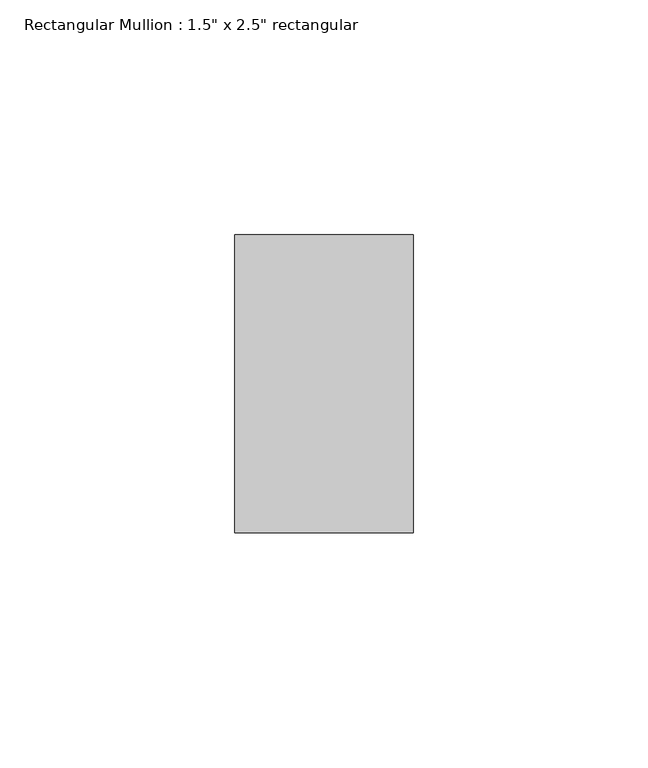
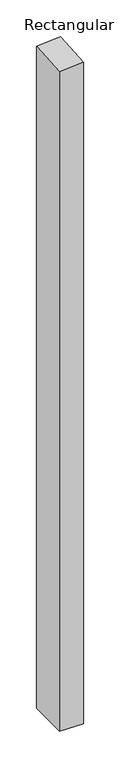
"""IFC4 building model written with IfcOpenShell, lengths in millimetres: member geometry."""

from ifc_helpers import new_model, si_unit, origin, place, context, project, spatial, faceted_brep, source, transform, mapped, element, save


def member_1634c9d9(model_context):
    return source(origin(), model_context, "Body", "Brep", [
        faceted_brep([(19.05, 31.75, -1106.1620381), (19.05, -31.75, -1106.1620381), (-19.05, -31.75, -1106.1620381), (-19.05, 31.75, -1106.1620381), (-19.05, 31.75, 0.9011902), (19.05, 31.75, 3.6321371), (-19.05, -31.75, -3.6321371), (19.05, -31.75, -0.9011902)], [[[0, 1, 2, 3]], [[4, 5, 0, 3]], [[6, 4, 3, 2]], [[7, 6, 2, 1]], [[5, 7, 1, 0]], [[5, 4, 6, 7]]]),
    ])


if __name__ == "__main__":
    model = new_model("IFC4")
    model_context = context("Model", 3, world=origin())
    ifc_project = project(units=[si_unit("LENGTHUNIT", "METRE", prefix="MILLI")], contexts=[model_context])
    site = spatial("IfcSite", under=ifc_project)
    building = spatial("IfcBuilding", under=site)
    placement = place(None, origin())
    member_shape = member_1634c9d9(model_context)
    element("IfcMember", 1, ObjectType="Rectangular Mullion : 1.5\" x 2.5\" rectangular", at=placement, inside=building, context=model_context, shape_type="MappedRepresentation", body=[
        mapped(member_shape, transform((0.0, 0.0, 0.0), x_axis=(1.0, 0.0, 0.0), y_axis=(0.0, 1.0, 0.0), z_axis=(0.0, 0.0, 1.0))),
    ])
    save(model, "model.ifc")
